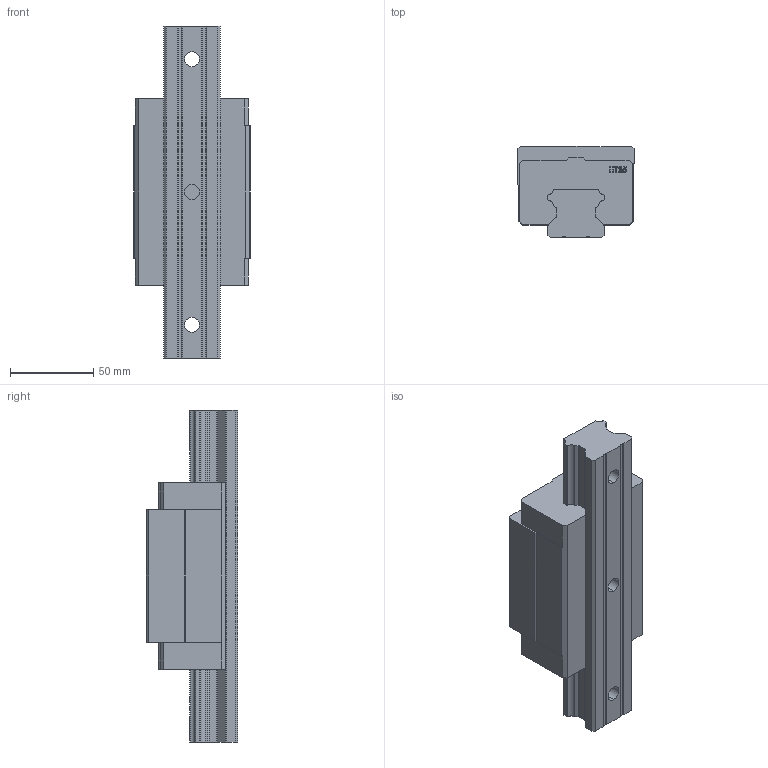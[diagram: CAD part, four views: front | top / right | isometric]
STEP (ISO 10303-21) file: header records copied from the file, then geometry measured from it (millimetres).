
FILE_DESCRIPTION (( 'STEP AP214' ), '1' );
FILE_NAME ('7.1020 Lineaarikelkka HTH35CA.STEP', '2026-03-11T06:35:19', ( '' ), ( '' ), 'SwSTEP 2.0', 'SolidWorks 2025', '' );
FILE_SCHEMA (( 'AUTOMOTIVE_DESIGN' ));
Length unit declared in the file: millimetre
Products named in the file (3): 7.1020 Lineaarikelkka HTH35CA; HTR35; HTH35
Assembly tree (2 placements, depth 2):
  7.1020 Lineaarikelkka HTH35CA
    HTH35
    HTR35
Bounding box: 70 x 55 x 200 mm (x, y, z)
Volume: 439741.3 mm3; surface area: 67751.6 mm2
Topology: 2 solids, 2 shells, 221 faces, 600 edges, 400 vertices
Faces by surface type: plane 158, cylinder 38, bspline 25
Entity records: 11713 total; most frequent: CARTESIAN_POINT 3671, ORIENTED_EDGE 1200, DIRECTION 1028, EDGE_CURVE 600, LINE 474, VECTOR 474, VERTEX_POINT 400, AXIS2_PLACEMENT_3D 277
